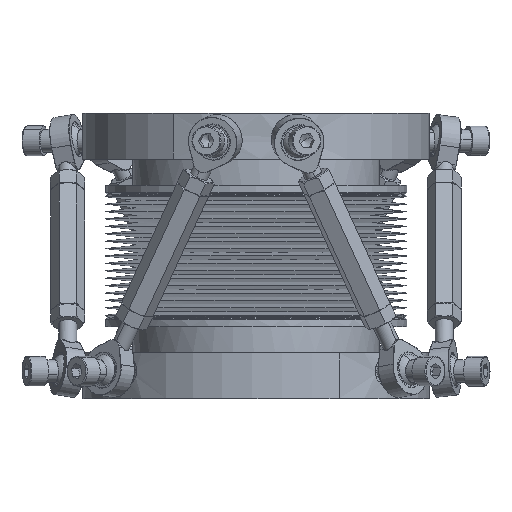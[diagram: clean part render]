
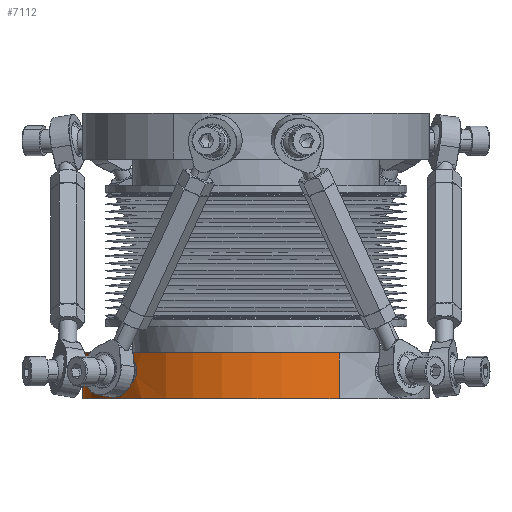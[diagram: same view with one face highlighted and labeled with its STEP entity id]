
A CAD part, left-side view. The second image highlights one B-rep face of the part: STEP entity #7112.
In plain terms, the highlighted cylindrical face has radius 76 mm (diameter 152 mm), a partial arc.
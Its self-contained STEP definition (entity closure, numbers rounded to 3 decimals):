
#5340=AXIS2_PLACEMENT_3D('Circle Axis2P3D',#5338,#5339,$) ;
#6563=AXIS2_PLACEMENT_3D('Circle Axis2P3D',#6561,#6562,$) ;
#6784=AXIS2_PLACEMENT_3D('Cylinder Axis2P3D',#6781,#6782,#6783) ;
#5333=CARTESIAN_POINT('Vertex',(-66.696,-36.436,20.)) ;
#5335=CARTESIAN_POINT('Vertex',(66.696,36.436,20.)) ;
#5338=CARTESIAN_POINT('Axis2P3D Location',(0.,0.,20.)) ;
#6561=CARTESIAN_POINT('Axis2P3D Location',(0.,0.,0.)) ;
#6565=CARTESIAN_POINT('Vertex',(66.696,36.436,0.)) ;
#6567=CARTESIAN_POINT('Vertex',(-66.696,-36.436,0.)) ;
#6781=CARTESIAN_POINT('Axis2P3D Location',(0.,0.,10.)) ;
#6786=CARTESIAN_POINT('Line Origine',(-66.696,-36.436,10.)) ;
#6791=CARTESIAN_POINT('Line Origine',(66.696,36.436,10.)) ;
#7029=CARTESIAN_POINT('Control Point',(-52.955,54.514,17.265)) ;
#7030=CARTESIAN_POINT('Control Point',(-53.36,54.12,16.957)) ;
#7031=CARTESIAN_POINT('Control Point',(-53.732,53.752,16.574)) ;
#7032=CARTESIAN_POINT('Control Point',(-54.062,53.419,16.122)) ;
#7033=CARTESIAN_POINT('Control Point',(-54.905,52.557,14.598)) ;
#7034=CARTESIAN_POINT('Control Point',(-55.274,52.16,12.678)) ;
#7035=CARTESIAN_POINT('Control Point',(-55.275,52.16,11.329)) ;
#7036=CARTESIAN_POINT('Control Point',(-54.907,52.555,9.409)) ;
#7037=CARTESIAN_POINT('Control Point',(-54.065,53.416,7.883)) ;
#7038=CARTESIAN_POINT('Control Point',(-53.736,53.748,7.431)) ;
#7039=CARTESIAN_POINT('Control Point',(-52.67,54.804,6.329)) ;
#7040=CARTESIAN_POINT('Control Point',(-51.331,56.066,5.847)) ;
#7041=CARTESIAN_POINT('Control Point',(-50.398,56.906,5.846)) ;
#7042=CARTESIAN_POINT('Control Point',(-49.49,57.688,6.159)) ;
#7043=CARTESIAN_POINT('Control Point',(-48.68,58.363,6.735)) ;
#7044=CARTESIAN_POINT('Vertex',(-52.955,54.514,17.265)) ;
#7046=CARTESIAN_POINT('Vertex',(-48.68,58.363,6.735)) ;
#7050=CARTESIAN_POINT('Control Point',(-48.68,58.363,6.735)) ;
#7051=CARTESIAN_POINT('Control Point',(-48.246,58.725,7.043)) ;
#7052=CARTESIAN_POINT('Control Point',(-47.841,59.056,7.426)) ;
#7053=CARTESIAN_POINT('Control Point',(-47.475,59.349,7.878)) ;
#7054=CARTESIAN_POINT('Control Point',(-46.53,60.098,9.402)) ;
#7055=CARTESIAN_POINT('Control Point',(-46.097,60.424,11.322)) ;
#7056=CARTESIAN_POINT('Control Point',(-46.096,60.424,12.671)) ;
#7057=CARTESIAN_POINT('Control Point',(-46.527,60.1,14.591)) ;
#7058=CARTESIAN_POINT('Control Point',(-47.472,59.352,16.117)) ;
#7059=CARTESIAN_POINT('Control Point',(-47.837,59.059,16.569)) ;
#7060=CARTESIAN_POINT('Control Point',(-48.998,58.11,17.671)) ;
#7061=CARTESIAN_POINT('Control Point',(-50.393,56.911,18.153)) ;
#7062=CARTESIAN_POINT('Control Point',(-51.326,56.071,18.154)) ;
#7063=CARTESIAN_POINT('Control Point',(-52.199,55.249,17.841)) ;
#7064=CARTESIAN_POINT('Control Point',(-52.955,54.514,17.265)) ;
#7071=CARTESIAN_POINT('Control Point',(-26.204,71.34,17.265)) ;
#7072=CARTESIAN_POINT('Control Point',(-26.734,71.145,16.957)) ;
#7073=CARTESIAN_POINT('Control Point',(-27.224,70.96,16.574)) ;
#7074=CARTESIAN_POINT('Control Point',(-27.66,70.79,16.122)) ;
#7075=CARTESIAN_POINT('Control Point',(-28.781,70.345,14.598)) ;
#7076=CARTESIAN_POINT('Control Point',(-29.28,70.133,12.678)) ;
#7077=CARTESIAN_POINT('Control Point',(-29.281,70.133,11.329)) ;
#7078=CARTESIAN_POINT('Control Point',(-28.784,70.344,9.409)) ;
#7079=CARTESIAN_POINT('Control Point',(-27.665,70.788,7.883)) ;
#7080=CARTESIAN_POINT('Control Point',(-27.229,70.958,7.431)) ;
#7081=CARTESIAN_POINT('Control Point',(-25.826,71.489,6.329)) ;
#7082=CARTESIAN_POINT('Control Point',(-24.09,72.097,5.847)) ;
#7083=CARTESIAN_POINT('Control Point',(-22.896,72.485,5.846)) ;
#7084=CARTESIAN_POINT('Control Point',(-21.747,72.83,6.159)) ;
#7085=CARTESIAN_POINT('Control Point',(-20.733,73.117,6.735)) ;
#7086=CARTESIAN_POINT('Vertex',(-26.204,71.34,17.265)) ;
#7088=CARTESIAN_POINT('Vertex',(-20.733,73.117,6.735)) ;
#7092=CARTESIAN_POINT('Control Point',(-20.733,73.117,6.735)) ;
#7093=CARTESIAN_POINT('Control Point',(-20.19,73.271,7.043)) ;
#7094=CARTESIAN_POINT('Control Point',(-19.685,73.409,7.426)) ;
#7095=CARTESIAN_POINT('Control Point',(-19.231,73.528,7.878)) ;
#7096=CARTESIAN_POINT('Control Point',(-18.063,73.827,9.402)) ;
#7097=CARTESIAN_POINT('Control Point',(-17.535,73.949,11.322)) ;
#7098=CARTESIAN_POINT('Control Point',(-17.534,73.949,12.671)) ;
#7099=CARTESIAN_POINT('Control Point',(-18.06,73.828,14.591)) ;
#7100=CARTESIAN_POINT('Control Point',(-19.227,73.53,16.117)) ;
#7101=CARTESIAN_POINT('Control Point',(-19.68,73.411,16.569)) ;
#7102=CARTESIAN_POINT('Control Point',(-21.127,73.016,17.671)) ;
#7103=CARTESIAN_POINT('Control Point',(-22.889,72.487,18.153)) ;
#7104=CARTESIAN_POINT('Control Point',(-24.083,72.099,18.154)) ;
#7105=CARTESIAN_POINT('Control Point',(-25.214,71.703,17.841)) ;
#7106=CARTESIAN_POINT('Control Point',(-26.204,71.34,17.265)) ;
#5339=DIRECTION('Axis2P3D Direction',(0.,0.,1.)) ;
#6562=DIRECTION('Axis2P3D Direction',(0.,0.,1.)) ;
#6782=DIRECTION('Axis2P3D Direction',(0.,0.,1.)) ;
#6783=DIRECTION('Axis2P3D XDirection',(0.878,0.479,0.)) ;
#6787=DIRECTION('Vector Direction',(0.,0.,1.)) ;
#6792=DIRECTION('Vector Direction',(0.,0.,1.)) ;
#6788=VECTOR('Line Direction',#6787,1.) ;
#6793=VECTOR('Line Direction',#6792,1.) ;
#7023=ORIENTED_EDGE('',*,*,#5342,.F.) ;
#7024=ORIENTED_EDGE('',*,*,#6795,.T.) ;
#7025=ORIENTED_EDGE('',*,*,#6569,.T.) ;
#7026=ORIENTED_EDGE('',*,*,#6790,.F.) ;
#7067=ORIENTED_EDGE('',*,*,#7048,.T.) ;
#7068=ORIENTED_EDGE('',*,*,#7065,.T.) ;
#7109=ORIENTED_EDGE('',*,*,#7090,.T.) ;
#7110=ORIENTED_EDGE('',*,*,#7107,.T.) ;
#7069=FACE_BOUND('',#7066,.T.) ;
#7111=FACE_BOUND('',#7108,.T.) ;
#7112=ADVANCED_FACE('PA100HEXBU_64723.1\\PA100HEXBU_BU.1',(#7027,#7069,#7111),#6785,.T.) ;
#7028=B_SPLINE_CURVE_WITH_KNOTS('',5,(#7029,#7030,#7031,#7032,#7033,#7034,#7035,#7036,#7037,#7038,#7039,#7040,#7041,#7042,#7043),.UNSPECIFIED.,.F.,.U.,(6,3,3,3,6),(0.,4.548,13.623,18.17,26.667),.UNSPECIFIED.) ;
#7049=B_SPLINE_CURVE_WITH_KNOTS('',5,(#7050,#7051,#7052,#7053,#7054,#7055,#7056,#7057,#7058,#7059,#7060,#7061,#7062,#7063,#7064),.UNSPECIFIED.,.F.,.U.,(6,3,3,3,6),(0.,4.548,13.623,18.17,26.667),.UNSPECIFIED.) ;
#7070=B_SPLINE_CURVE_WITH_KNOTS('',5,(#7071,#7072,#7073,#7074,#7075,#7076,#7077,#7078,#7079,#7080,#7081,#7082,#7083,#7084,#7085),.UNSPECIFIED.,.F.,.U.,(6,3,3,3,6),(0.,4.548,13.623,18.17,26.667),.UNSPECIFIED.) ;
#7091=B_SPLINE_CURVE_WITH_KNOTS('',5,(#7092,#7093,#7094,#7095,#7096,#7097,#7098,#7099,#7100,#7101,#7102,#7103,#7104,#7105,#7106),.UNSPECIFIED.,.F.,.U.,(6,3,3,3,6),(0.,4.548,13.623,18.17,26.667),.UNSPECIFIED.) ;
#5341=CIRCLE('generated circle',#5340,76.) ;
#6564=CIRCLE('generated circle',#6563,76.) ;
#6785=CYLINDRICAL_SURFACE('generated cylinder',#6784,76.) ;
#5342=EDGE_CURVE('',#5336,#5334,#5341,.T.) ;
#6569=EDGE_CURVE('',#6566,#6568,#6564,.T.) ;
#6790=EDGE_CURVE('',#5334,#6568,#6789,.F.) ;
#6795=EDGE_CURVE('',#5336,#6566,#6794,.F.) ;
#7048=EDGE_CURVE('',#7045,#7047,#7028,.T.) ;
#7065=EDGE_CURVE('',#7047,#7045,#7049,.T.) ;
#7090=EDGE_CURVE('',#7087,#7089,#7070,.T.) ;
#7107=EDGE_CURVE('',#7089,#7087,#7091,.T.) ;
#7022=EDGE_LOOP('',(#7023,#7024,#7025,#7026)) ;
#7066=EDGE_LOOP('',(#7067,#7068)) ;
#7108=EDGE_LOOP('',(#7109,#7110)) ;
#7027=FACE_OUTER_BOUND('',#7022,.T.) ;
#6789=LINE('Line',#6786,#6788) ;
#6794=LINE('Line',#6791,#6793) ;
#5334=VERTEX_POINT('',#5333) ;
#5336=VERTEX_POINT('',#5335) ;
#6566=VERTEX_POINT('',#6565) ;
#6568=VERTEX_POINT('',#6567) ;
#7045=VERTEX_POINT('',#7044) ;
#7047=VERTEX_POINT('',#7046) ;
#7087=VERTEX_POINT('',#7086) ;
#7089=VERTEX_POINT('',#7088) ;
